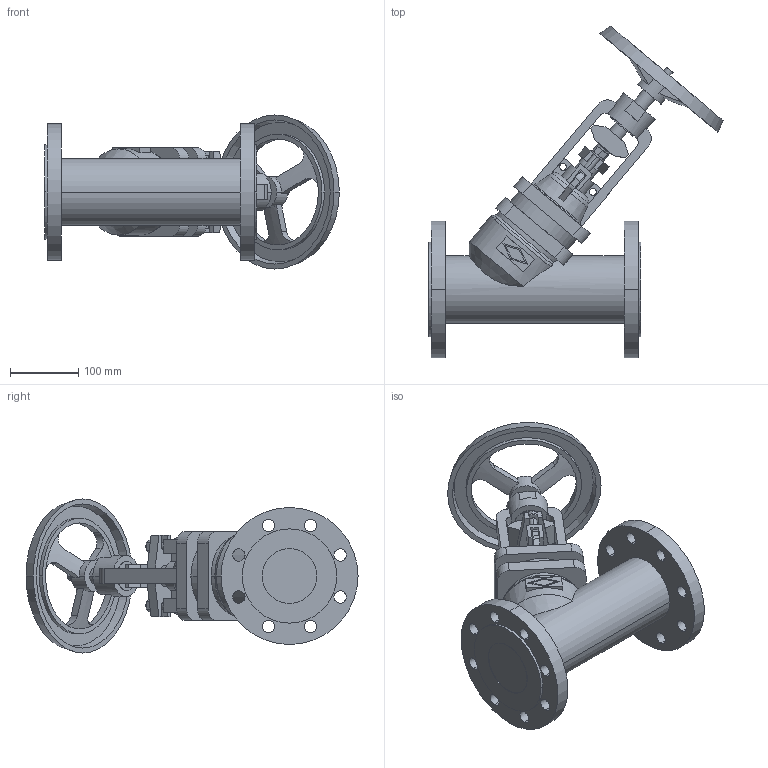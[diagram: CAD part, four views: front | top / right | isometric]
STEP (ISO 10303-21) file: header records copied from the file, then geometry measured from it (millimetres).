
FILE_DESCRIPTION(('OneSpaceDesigner STEP Export'),'2;1');
FILE_NAME('c000004408.stp','2010-05-10T 9:28:29',(''),(''),'OneSpace Designer STEP processor for AP214 (Solid Model)','OneSpace Modeling 15.50B 03-Nov-2007 (C) CoCreate Software GmbH','');
FILE_SCHEMA(('AUTOMOTIVE_DESIGN { 1 0 10303 214 1 1 1 1 }'));
Length unit declared in the file: millimetre
Products named in the file (1): 1
Bounding box: 430.31 x 484.82 x 225 mm (x, y, z)
Volume: 5625629.4 mm3; surface area: 471095.6 mm2
Topology: 1 solids, 1 shells, 312 faces, 823 edges, 539 vertices
Faces by surface type: plane 155, cylinder 119, cone 20, torus 18
Entity records: 12223 total; most frequent: CARTESIAN_POINT 2373, ORIENTED_EDGE 1646, DIRECTION 1348, EDGE_CURVE 823, VERTEX_POINT 539, AXIS2_PLACEMENT_3D 454, VECTOR 440, LINE 440
